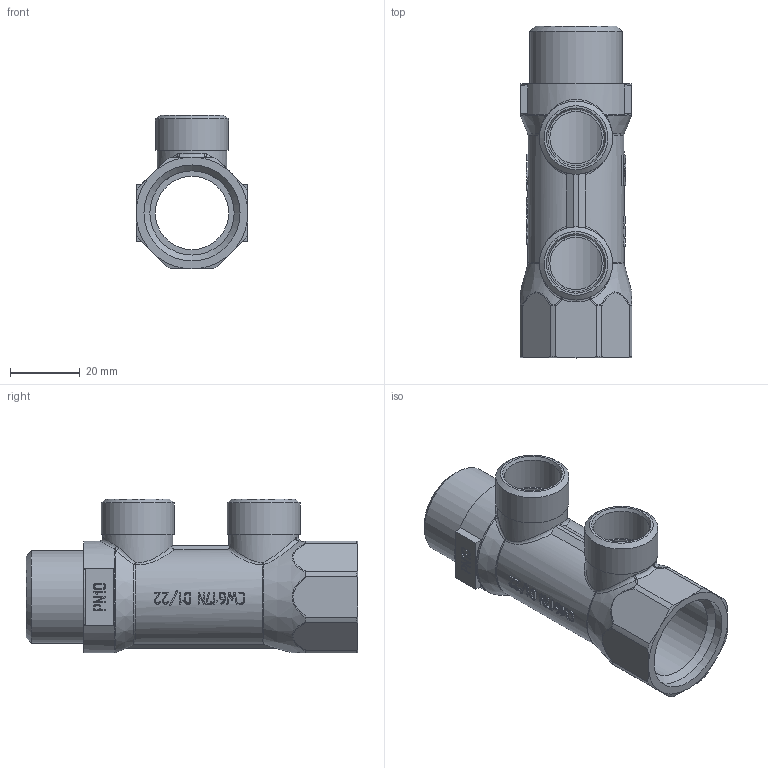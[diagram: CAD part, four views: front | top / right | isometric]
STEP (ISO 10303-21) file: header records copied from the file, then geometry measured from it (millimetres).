
FILE_DESCRIPTION(('STEP AP203'), '1');
FILE_NAME('ÂÐ.732182.022 - VTc.500.N.0502 Êîë. G3-4 (2õG1-2) L95', '2024-07-25T08:36:10', ('IT'), ('VESTA'), 'C3D Converter', 'C3D Toolkit', '');
FILE_SCHEMA(('CONFIG_CONTROL_DESIGN'));
Length unit declared in the file: millimetre
Products named in the file (1): ВР.732182.022
Bounding box: 32 x 95 x 44 mm (x, y, z)
Volume: 25818.3 mm3; surface area: 19785.3 mm2
Topology: 1 solids, 1 shells, 670 faces, 1849 edges, 1216 vertices
Faces by surface type: extrusion 338, plane 231, cylinder 44, bspline 26, cone 17, torus 14
Full cylindrical faces by diameter (mm): 15 x2, 16.1 x2, 20 x2, 20.955 x2, 21 x1, 24.118 x1, 26.441 x1, 27.5 x1, 32 x1
Entity records: 31290 total; most frequent: CARTESIAN_POINT 16161, ORIENTED_EDGE 3648, DIRECTION 1998, EDGE_CURVE 1824, VERTEX_POINT 1216, B_SPLINE_CURVE_WITH_KNOTS 1141, VECTOR 1102, LINE 764
